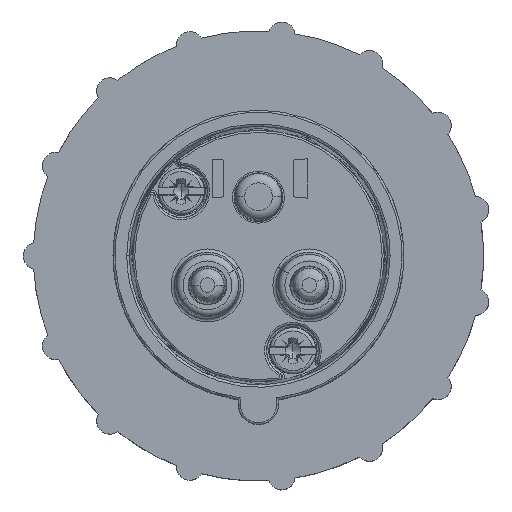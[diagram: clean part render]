
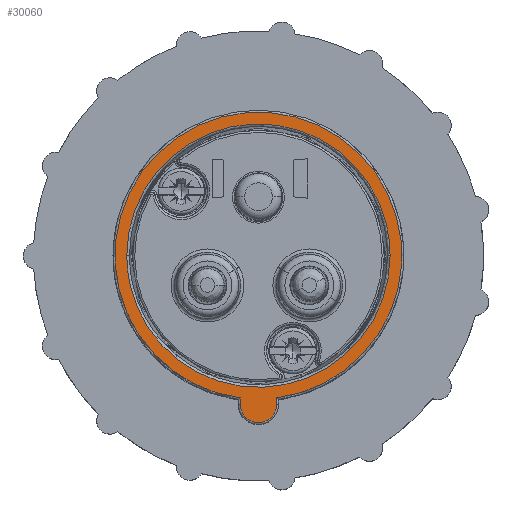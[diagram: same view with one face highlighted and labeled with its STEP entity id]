
A CAD part, top view. The second image highlights one B-rep face of the part: STEP entity #30060.
In plain terms, the highlighted planar face has unit normal (0, 0, 1).
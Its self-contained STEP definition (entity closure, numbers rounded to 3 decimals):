
#366=CARTESIAN_POINT('',(0.,0.,0.));
#367=DIRECTION('',(0.,0.,1.));
#368=DIRECTION('',(0.126,-0.992,0.));
#369=AXIS2_PLACEMENT_3D('',#366,#367,#368);
#22267=DIRECTION('',(0.,1.,0.));
#22268=VECTOR('',#22267,0.971);
#22269=CARTESIAN_POINT('',(2.7,-22.15,0.));
#22270=LINE('2082',#22269,#22268);
#22280=CARTESIAN_POINT('',(0.,-22.15,0.));
#22281=DIRECTION('',(0.,0.,1.));
#22282=DIRECTION('',(-1.,0.,0.));
#22283=AXIS2_PLACEMENT_3D('',#22280,#22281,#22282);
#22295=DIRECTION('',(0.,-1.,0.));
#22296=VECTOR('',#22295,0.971);
#22297=CARTESIAN_POINT('',(-2.7,-21.179,0.));
#22298=LINE('2086',#22297,#22296);
#22324=CARTESIAN_POINT('',(19.598,0.,0.));
#22325=CARTESIAN_POINT('',(19.598,-0.706,
0.));
#22326=CARTESIAN_POINT('',(19.522,-2.113,
0.));
#22327=CARTESIAN_POINT('',(19.175,-4.228,
0.));
#22328=CARTESIAN_POINT('',(18.603,-6.284,
0.));
#22329=CARTESIAN_POINT('',(17.822,-8.244,
0.));
#22330=CARTESIAN_POINT('',(16.826,-10.122,
0.));
#22331=CARTESIAN_POINT('',(15.622,-11.896,
0.));
#22332=CARTESIAN_POINT('',(14.25,-13.51,
0.));
#22333=CARTESIAN_POINT('',(12.714,-14.964,
0.));
#22334=CARTESIAN_POINT('',(11.016,-16.255,
0.));
#22335=CARTESIAN_POINT('',(9.187,-17.354,
0.));
#22336=CARTESIAN_POINT('',(7.267,-18.243,0.));
#22337=CARTESIAN_POINT('',(5.256,-18.919,0.));
#22338=CARTESIAN_POINT('',(3.172,-19.378,0.));
#22339=CARTESIAN_POINT('',(1.055,-19.608,0.));
#22340=CARTESIAN_POINT('',(-1.057,-19.608,0.));
#22341=CARTESIAN_POINT('',(-3.175,-19.377,0.));
#22342=CARTESIAN_POINT('',(-5.257,-18.919,0.));
#22343=CARTESIAN_POINT('',(-7.269,-18.242,0.));
#22344=CARTESIAN_POINT('',(-9.188,-17.354,
0.));
#22345=CARTESIAN_POINT('',(-11.018,-16.253,
0.));
#22346=CARTESIAN_POINT('',(-12.714,-14.964,
0.));
#22347=CARTESIAN_POINT('',(-14.251,-13.51,
0.));
#22348=CARTESIAN_POINT('',(-15.623,-11.895,
0.));
#22349=CARTESIAN_POINT('',(-16.826,-10.121,
0.));
#22350=CARTESIAN_POINT('',(-17.822,-8.244,
0.));
#22351=CARTESIAN_POINT('',(-18.604,-6.284,
0.));
#22352=CARTESIAN_POINT('',(-19.175,-4.228,
0.));
#22353=CARTESIAN_POINT('',(-19.522,-2.113,
0.));
#22354=CARTESIAN_POINT('',(-19.598,-0.706,
0.));
#22355=CARTESIAN_POINT('',(-19.598,0.,0.));
#22374=CARTESIAN_POINT('',(-19.598,0.,0.));
#22375=CARTESIAN_POINT('',(-19.598,0.706,
0.));
#22376=CARTESIAN_POINT('',(-19.522,2.113,
0.));
#22377=CARTESIAN_POINT('',(-19.175,4.228,
0.));
#22378=CARTESIAN_POINT('',(-18.603,6.284,
0.));
#22379=CARTESIAN_POINT('',(-17.822,8.244,
0.));
#22380=CARTESIAN_POINT('',(-16.826,10.122,
0.));
#22381=CARTESIAN_POINT('',(-15.622,11.896,
0.));
#22382=CARTESIAN_POINT('',(-14.25,13.51,
0.));
#22383=CARTESIAN_POINT('',(-12.714,14.964,
0.));
#22384=CARTESIAN_POINT('',(-11.016,16.255,
0.));
#22385=CARTESIAN_POINT('',(-9.187,17.354,
0.));
#22386=CARTESIAN_POINT('',(-7.267,18.243,0.));
#22387=CARTESIAN_POINT('',(-5.256,18.919,0.));
#22388=CARTESIAN_POINT('',(-3.172,19.378,0.));
#22389=CARTESIAN_POINT('',(-1.055,19.608,0.));
#22390=CARTESIAN_POINT('',(1.057,19.608,0.));
#22391=CARTESIAN_POINT('',(3.175,19.377,0.));
#22392=CARTESIAN_POINT('',(5.257,18.919,0.));
#22393=CARTESIAN_POINT('',(7.269,18.242,0.));
#22394=CARTESIAN_POINT('',(9.188,17.354,
0.));
#22395=CARTESIAN_POINT('',(11.018,16.253,
0.));
#22396=CARTESIAN_POINT('',(12.714,14.964,
0.));
#22397=CARTESIAN_POINT('',(14.251,13.51,
0.));
#22398=CARTESIAN_POINT('',(15.623,11.895,
0.));
#22399=CARTESIAN_POINT('',(16.826,10.121,
0.));
#22400=CARTESIAN_POINT('',(17.822,8.244,
0.));
#22401=CARTESIAN_POINT('',(18.604,6.284,
0.));
#22402=CARTESIAN_POINT('',(19.175,4.228,
0.));
#22403=CARTESIAN_POINT('',(19.522,2.113,
0.));
#22404=CARTESIAN_POINT('',(19.598,0.706,
0.));
#22405=CARTESIAN_POINT('',(19.598,0.,0.));
#25102=VERTEX_POINT('',#22324);
#25103=VERTEX_POINT('',#22355);
#25565=CARTESIAN_POINT('',(2.7,-22.15,0.));
#25566=CARTESIAN_POINT('',(2.7,-21.179,0.));
#25567=VERTEX_POINT('',#25565);
#25568=VERTEX_POINT('',#25566);
#25573=CARTESIAN_POINT('',(-2.7,-22.15,0.));
#25574=VERTEX_POINT('',#25573);
#25577=CARTESIAN_POINT('',(-2.7,-21.179,0.));
#25578=VERTEX_POINT('',#25577);
#30039=CARTESIAN_POINT('',(0.,0.,0.));
#30040=DIRECTION('',(0.,0.,1.));
#30041=DIRECTION('',(0.,-1.,0.));
#30042=AXIS2_PLACEMENT_3D('',#30039,#30040,#30041);
#30043=PLANE('29',#30042);
#30045=ORIENTED_EDGE('2093',*,*,#30044,.F.);
#30047=ORIENTED_EDGE('2082',*,*,#30046,.F.);
#30049=ORIENTED_EDGE('2084',*,*,#30048,.F.);
#30051=ORIENTED_EDGE('2086',*,*,#30050,.F.);
#30052=EDGE_LOOP('29',(#30045,#30047,#30049,#30051));
#30053=FACE_OUTER_BOUND('29',#30052,.F.);
#30055=ORIENTED_EDGE('1774',*,*,#30054,.F.);
#30057=ORIENTED_EDGE('1776',*,*,#30056,.F.);
#30058=EDGE_LOOP('29',(#30055,#30057));
#30059=FACE_BOUND('29',#30058,.F.);
#370=CIRCLE('2093',#369,21.35);
#22284=CIRCLE('2084',#22283,2.7);
#22356=B_SPLINE_CURVE_WITH_KNOTS('1774',3,(#22324,#22325,#22326,#22327,#22328,
#22329,#22330,#22331,#22332,#22333,#22334,#22335,#22336,#22337,#22338,#22339,
#22340,#22341,#22342,#22343,#22344,#22345,#22346,#22347,#22348,#22349,#22350,
#22351,#22352,#22353,#22354,#22355),.UNSPECIFIED.,.F.,.F.,(4,1,1,1,1,1,1,1,1,1,
1,1,1,1,1,1,1,1,1,1,1,1,1,1,1,1,1,1,1,4),(0.,0.034,
0.069,0.103,0.138,0.172,
0.207,0.241,0.276,0.31,
0.345,0.379,0.414,0.448,
0.483,0.517,0.552,0.586,
0.621,0.655,0.69,0.724,
0.759,0.793,0.828,0.862,
0.897,0.931,0.966,1.),.UNSPECIFIED.);
#22406=B_SPLINE_CURVE_WITH_KNOTS('1776',3,(#22374,#22375,#22376,#22377,#22378,
#22379,#22380,#22381,#22382,#22383,#22384,#22385,#22386,#22387,#22388,#22389,
#22390,#22391,#22392,#22393,#22394,#22395,#22396,#22397,#22398,#22399,#22400,
#22401,#22402,#22403,#22404,#22405),.UNSPECIFIED.,.F.,.F.,(4,1,1,1,1,1,1,1,1,1,
1,1,1,1,1,1,1,1,1,1,1,1,1,1,1,1,1,1,1,4),(0.,0.034,
0.069,0.103,0.138,0.172,
0.207,0.241,0.276,0.31,
0.345,0.379,0.414,0.448,
0.483,0.517,0.552,0.586,
0.621,0.655,0.69,0.724,
0.759,0.793,0.828,0.862,
0.897,0.931,0.966,1.),.UNSPECIFIED.);
#30044=EDGE_CURVE('2093',#25568,#25578,#370,.T.);
#30046=EDGE_CURVE('2082',#25567,#25568,#22270,.T.);
#30048=EDGE_CURVE('2084',#25574,#25567,#22284,.T.);
#30050=EDGE_CURVE('2086',#25578,#25574,#22298,.T.);
#30054=EDGE_CURVE('1774',#25102,#25103,#22356,.T.);
#30056=EDGE_CURVE('1776',#25103,#25102,#22406,.T.);
#30060=ADVANCED_FACE('29',(#30053,#30059),#30043,.T.);
